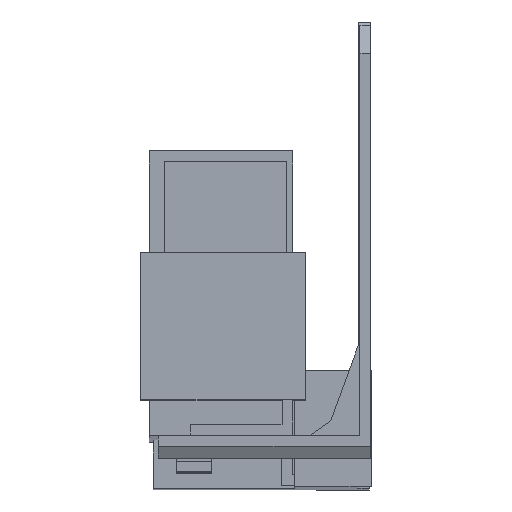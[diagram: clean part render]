
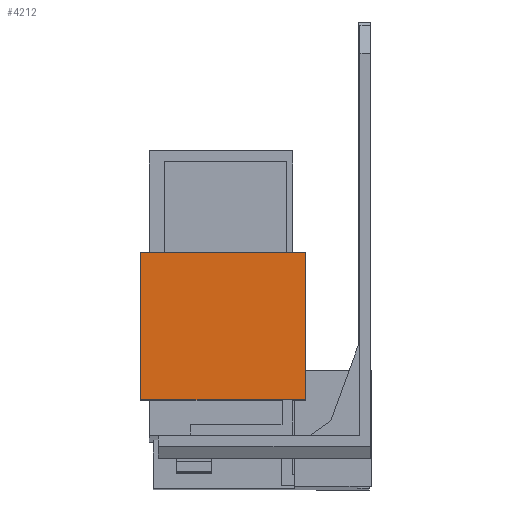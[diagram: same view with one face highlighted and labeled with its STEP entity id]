
A CAD part, front view. The second image highlights one B-rep face of the part: STEP entity #4212.
In plain terms, the highlighted planar face has unit normal (0, -1, 0.003).
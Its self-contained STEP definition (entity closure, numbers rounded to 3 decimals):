
#470 = CARTESIAN_POINT ( 'NONE',  ( -32.7, -29.009, -40.322 ) ) ;
#471 = DIRECTION ( 'NONE',  ( 0., 0.003, 1. ) ) ;
#527 = CARTESIAN_POINT ( 'NONE',  ( -9.3, -29.009, -40.322 ) ) ;
#578 = CARTESIAN_POINT ( 'NONE',  ( -9.3, -28.952, -19.322 ) ) ;
#579 = CARTESIAN_POINT ( 'NONE',  ( -32.7, -28.952, -19.322 ) ) ;
#581 = CARTESIAN_POINT ( 'NONE',  ( -32.7, -29.009, -40.322 ) ) ;
#788 = PLANE ( 'NONE',  #4906 ) ;
#791 = CARTESIAN_POINT ( 'NONE',  ( -9.3, -29.009, -40.322 ) ) ;
#816 = DIRECTION ( 'NONE',  ( 1., 0., 0. ) ) ;
#817 = DIRECTION ( 'NONE',  ( 0., -1., 0.003 ) ) ;
#922 = ORIENTED_EDGE ( 'NONE', *, *, #4442, .T. ) ;
#923 = ORIENTED_EDGE ( 'NONE', *, *, #4365, .F. ) ;
#924 = ORIENTED_EDGE ( 'NONE', *, *, #4759, .F. ) ;
#925 = ORIENTED_EDGE ( 'NONE', *, *, #4709, .T. ) ;
#994 = EDGE_LOOP ( 'NONE', ( #922, #923, #924, #925 ) ) ;
#1428 = LINE ( 'NONE', #2149, #1429 ) ;
#1429 = VECTOR ( 'NONE', #2150, 1000. ) ;
#1482 = LINE ( 'NONE', #2218, #1483 ) ;
#1483 = VECTOR ( 'NONE', #2219, 1000. ) ;
#1781 = CARTESIAN_POINT ( 'NONE',  ( -9.3, -28.952, -19.322 ) ) ;
#1790 = DIRECTION ( 'NONE',  ( -1., 0., 0. ) ) ;
#2149 = CARTESIAN_POINT ( 'NONE',  ( -9.3, -29.009, -40.322 ) ) ;
#2150 = DIRECTION ( 'NONE',  ( 0., 0.003, 1. ) ) ;
#2218 = CARTESIAN_POINT ( 'NONE',  ( -9.3, -29.009, -40.322 ) ) ;
#2219 = DIRECTION ( 'NONE',  ( -1., 0., 0. ) ) ;
#3340 = FACE_OUTER_BOUND ( 'NONE', #994, .T. ) ;
#3500 = LINE ( 'NONE', #470, #3505 ) ;
#3505 = VECTOR ( 'NONE', #471, 1000. ) ;
#3585 = LINE ( 'NONE', #1781, #3596 ) ;
#3596 = VECTOR ( 'NONE', #1790, 1000. ) ;
#4070 = VERTEX_POINT ( 'NONE', #527 ) ;
#4105 = VERTEX_POINT ( 'NONE', #578 ) ;
#4106 = VERTEX_POINT ( 'NONE', #579 ) ;
#4108 = VERTEX_POINT ( 'NONE', #581 ) ;
#4212 = ADVANCED_FACE ( 'NONE', ( #3340 ), #788, .T. ) ;
#4365 = EDGE_CURVE ( 'NONE', #4108, #4106, #3500, .T. ) ;
#4442 = EDGE_CURVE ( 'NONE', #4105, #4106, #3585, .T. ) ;
#4709 = EDGE_CURVE ( 'NONE', #4070, #4105, #1428, .T. ) ;
#4759 = EDGE_CURVE ( 'NONE', #4070, #4108, #1482, .T. ) ;
#4906 = AXIS2_PLACEMENT_3D ( 'NONE', #791, #817, #816 ) ;
